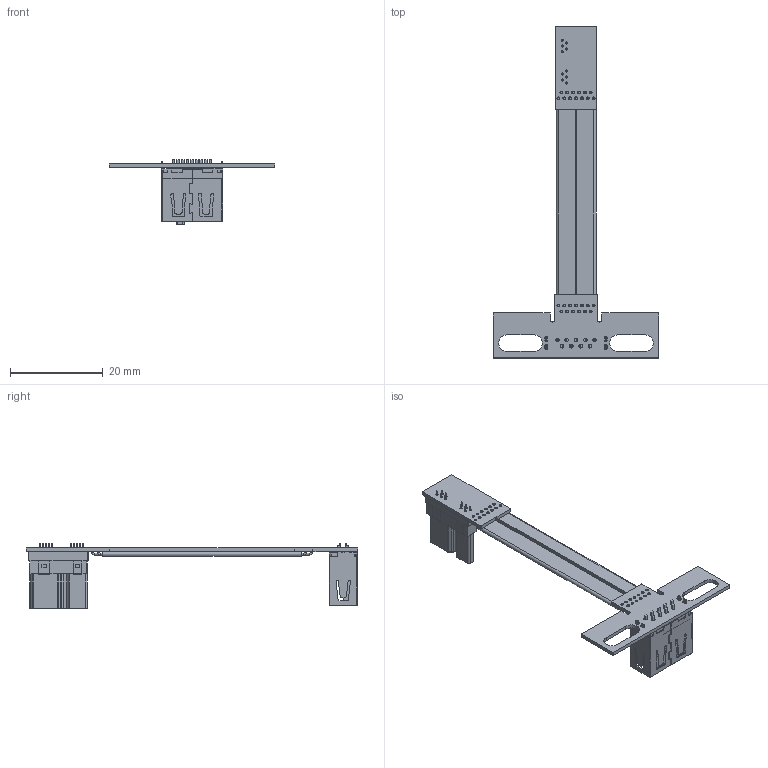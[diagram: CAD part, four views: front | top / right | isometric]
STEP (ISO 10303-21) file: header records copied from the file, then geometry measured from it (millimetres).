
FILE_DESCRIPTION(('Open CASCADE Model'),'2;1');
FILE_NAME('Open CASCADE Shape Model','2022-04-17T15:34:34',('Author'),( 'Open CASCADE'),'Open CASCADE STEP processor 6.8','Open CASCADE 6.8' ,'Unknown');
FILE_SCHEMA(('AUTOMOTIVE_DESIGN { 1 0 10303 214 1 1 1 1 }'));
Length unit declared in the file: millimetre
Products named in the file (53): PCB; Board; Open CASCADE STEP translator 6.8 2.1.1; Designator22; micro_usb_3.0; _1; USB_20211129_(1); Free-Models; cable13-US2A
Assembly tree (52 placements, depth 3):
  PCB
    Board
      Open CASCADE STEP translator 6.8 2.1.1
    Designator22
      micro_usb_3.0
    _1
      USB_20211129_(1)
      USB_20211129_(1)
      USB_20211129_(1)
      USB_20211129_(1)
      USB_20211129_(1)
      USB_20211129_(1)
      USB_20211129_(1)
      USB_20211129_(1)
      USB_20211129_(1)
      USB_20211129_(1)
      USB_20211129_(1)
      USB_20211129_(1)
      USB_20211129_(1)
      USB_20211129_(1)
      USB_20211129_(1)
      USB_20211129_(1)
      USB_20211129_(1)
      USB_20211129_(1)
      USB_20211129_(1)
    Free-Models
      cable13-US2A
      cable13-US2A
      cable13-US2A
      cable13-US2A
      cable13-US2A
      cable13-US2A
      cable13-US2A
      cable13-US2A
      cable13-US2A
      cable13-US2A
      cable13-US2A
      cable13-US2A
      cable13-US2A
      cable13-US2A
      cable13-US2A
      cable13-US2A
      cable13-US2A
      cable13-US2A
      cable13-US2A
      cable13-US2A
      cable13-US2A
      cable13-US2A
      cable13-US2A
      cable13-US2A
      cable13-US2A
      cable13-US2A
      cable13-US2A
Bounding box: 35.78 x 71.78 x 14.07 mm (x, y, z)
Volume: 1403.2 mm3; surface area: 4533.9 mm2
Topology: 48 solids, 48 shells, 993 faces, 2558 edges, 1682 vertices
Faces by surface type: plane 607, cylinder 360, torus 26
Full cylindrical faces by diameter (mm): 0.4 x65, 0.45 x10, 0.6 x26, 0.8 x9
Entity records: 39427 total; most frequent: CARTESIAN_POINT 5507, DIRECTION 5282, ORIENTED_EDGE 5116, EDGE_CURVE 2558, AXIS2_PLACEMENT_3D 1769, LINE 1744, VECTOR 1744, VERTEX_POINT 1682
